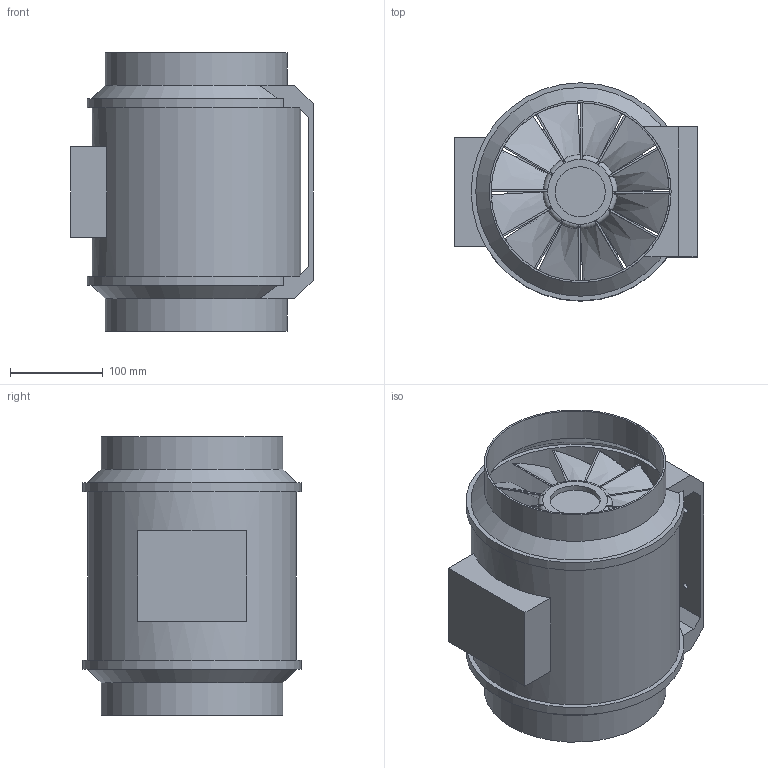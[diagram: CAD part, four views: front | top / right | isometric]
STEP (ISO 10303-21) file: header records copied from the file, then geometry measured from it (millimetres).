
FILE_DESCRIPTION(/* description */ (''),/* implementation_level */ '2;1');
FILE_NAME(/* name */ 'Z:\Output\MV_200-06055-004.stp',/* time_stamp */ '2022-07-25T13:49:12+02:00',/* author */ ('engineering1'),/* organization */ (''),/* preprocessor_version */ 'ST-DEVELOPER v17.2',/* originating_system */ 'Autodesk Inventor 2019',/* authorisation */ '');
FILE_SCHEMA (('AUTOMOTIVE_DESIGN { 1 0 10303 214 3 1 1 }'));
Length unit declared in the file: millimetre
Products named in the file (1): MV-1USER
Bounding box: 261 x 235 x 300 mm (x, y, z)
Volume: 4646910 mm3; surface area: 774267.6 mm2
Topology: 3 solids, 3 shells, 314 faces, 764 edges, 503 vertices
Faces by surface type: plane 237, bspline 36, cylinder 22, torus 13, cone 6
Full cylindrical faces by diameter (mm): 6 x4, 54 x1, 68 x1, 80 x1, 156 x1, 192 x2, 196 x2, 221 x1, 225 x1, 231 x2, 235 x2
Entity records: 10483 total; most frequent: CARTESIAN_POINT 2826, ORIENTED_EDGE 1528, DIRECTION 1426, EDGE_CURVE 764, LINE 508, VECTOR 508, VERTEX_POINT 503, AXIS2_PLACEMENT_3D 459
